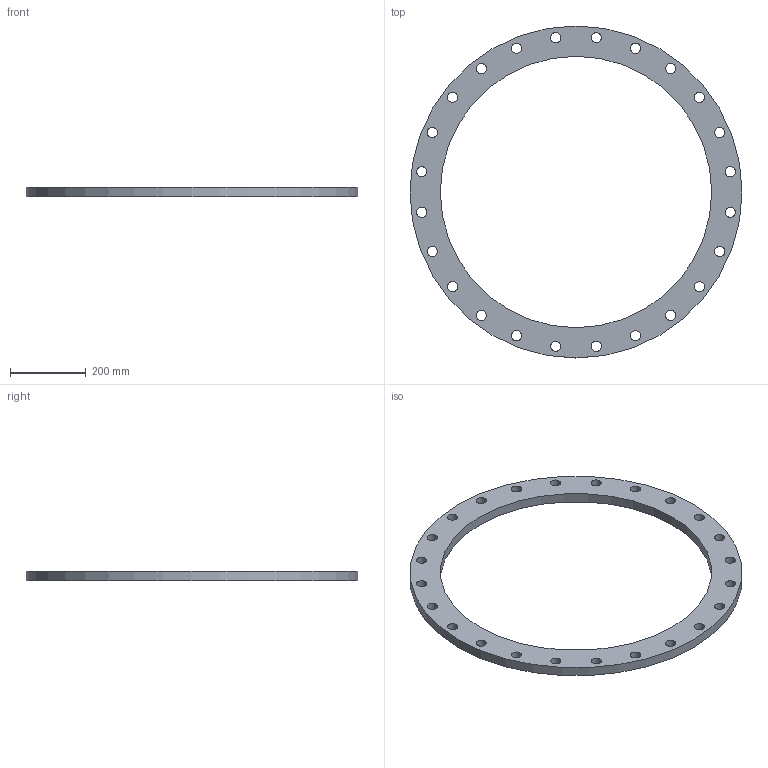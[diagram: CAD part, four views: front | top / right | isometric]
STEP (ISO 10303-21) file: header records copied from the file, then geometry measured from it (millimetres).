
FILE_DESCRIPTION(/* description */ (''),/* implementation_level */ '2;1');
FILE_NAME(/* name */ 'C:\Users\D\Documents\Inventor\HP\JIS\フランジ\JIS 5k sop ff\jis5k-sop-ff-700.stp',/* time_stamp */ '2024-09-12T16:54:09+09:00',/* author */ ('D'),/* organization */ (''),/* preprocessor_version */ 'ST-DEVELOPER v18',/* originating_system */ 'Autodesk Inventor 2020',/* authorisation */ '');
FILE_SCHEMA (('AUTOMOTIVE_DESIGN { 1 0 10303 214 3 1 1 }'));
Length unit declared in the file: millimetre
Products named in the file (1): jis5k-sop-rf-10
Bounding box: 875 x 875 x 26 mm (x, y, z)
Volume: 4837663.1 mm3; surface area: 554930.9 mm2
Topology: 1 solids, 1 shells, 28 faces, 105 edges, 79 vertices
Faces by surface type: cylinder 26, plane 2
Full cylindrical faces by diameter (mm): 27 x24, 715 x1, 875 x1
Entity records: 1345 total; most frequent: DIRECTION 242, CARTESIAN_POINT 213, ORIENTED_EDGE 210, AXIS2_PLACEMENT_3D 108, EDGE_CURVE 105, CIRCLE 79, VERTEX_POINT 79, EDGE_LOOP 78
